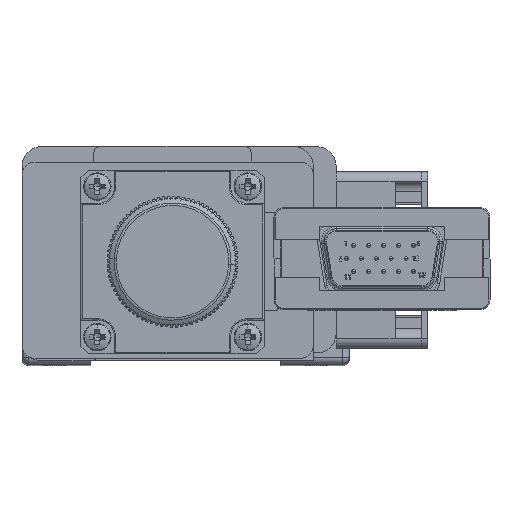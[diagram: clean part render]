
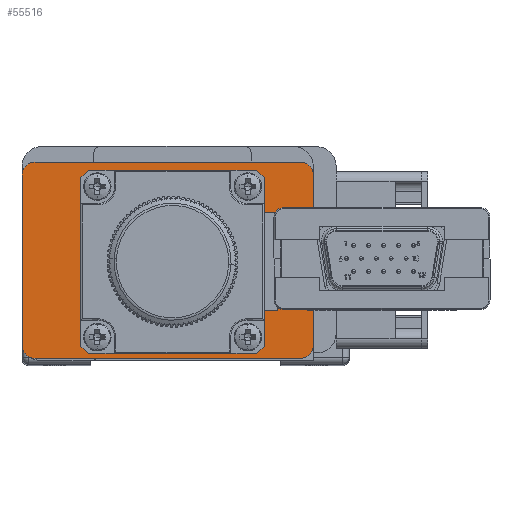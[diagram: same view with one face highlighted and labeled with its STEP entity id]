
A CAD part, top view. The second image highlights one B-rep face of the part: STEP entity #55516.
In plain terms, the highlighted planar face has unit normal (0, 0, 1).
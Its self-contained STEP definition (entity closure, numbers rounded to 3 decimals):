
#1582 = ORIENTED_EDGE ( 'NONE', *, *, #48464, .T. ) ;
#3471 = DIRECTION ( 'NONE',  ( 1., 0., 0. ) ) ;
#3500 = PLANE ( 'NONE',  #75609 ) ;
#4086 = DIRECTION ( 'NONE',  ( 1., 0., 0. ) ) ;
#4214 = VECTOR ( 'NONE', #81685, 1000. ) ;
#4938 = VERTEX_POINT ( 'NONE', #30209 ) ;
#5626 = LINE ( 'NONE', #32483, #68173 ) ;
#5720 = AXIS2_PLACEMENT_3D ( 'NONE', #13484, #27358, #54657 ) ;
#9014 = EDGE_CURVE ( 'NONE', #15993, #18478, #86509, .T. ) ;
#10518 = EDGE_CURVE ( 'NONE', #53609, #67278, #5626, .T. ) ;
#12225 = CARTESIAN_POINT ( 'NONE',  ( -15.7, 1.5, 173. ) ) ;
#12285 = CARTESIAN_POINT ( 'NONE',  ( 17.5, 30.8, 173. ) ) ;
#12494 = VECTOR ( 'NONE', #67122, 1000. ) ;
#12816 = AXIS2_PLACEMENT_3D ( 'NONE', #37669, #85050, #4086 ) ;
#13484 = CARTESIAN_POINT ( 'NONE',  ( 17.5, 2.8, 173. ) ) ;
#13660 = VECTOR ( 'NONE', #69851, 1000. ) ;
#14307 = CIRCLE ( 'NONE', #5720, 2. ) ;
#15535 = VECTOR ( 'NONE', #52042, 1000. ) ;
#15993 = VERTEX_POINT ( 'NONE', #56443 ) ;
#16459 = DIRECTION ( 'NONE',  ( -1., 0., 0. ) ) ;
#18478 = VERTEX_POINT ( 'NONE', #26362 ) ;
#20134 = CARTESIAN_POINT ( 'NONE',  ( -14.638, 29.288, 173. ) ) ;
#20224 = EDGE_LOOP ( 'NONE', ( #1582, #58415, #27338, #53879, #38634, #65085, #87998, #76456 ) ) ;
#21702 = VERTEX_POINT ( 'NONE', #75452 ) ;
#21891 = ORIENTED_EDGE ( 'NONE', *, *, #45389, .T. ) ;
#22682 = EDGE_CURVE ( 'NONE', #67278, #64568, #34999, .T. ) ;
#24197 = VERTEX_POINT ( 'NONE', #76011 ) ;
#24940 = CARTESIAN_POINT ( 'NONE',  ( -23., 2.8, 173. ) ) ;
#26105 = LINE ( 'NONE', #73969, #54055 ) ;
#26190 = VERTEX_POINT ( 'NONE', #27854 ) ;
#26362 = CARTESIAN_POINT ( 'NONE',  ( -23., 0.8, 173. ) ) ;
#26476 = DIRECTION ( 'NONE',  ( 1., 0., 0. ) ) ;
#26663 = DIRECTION ( 'NONE',  ( -1., 0., 0. ) ) ;
#27165 = CARTESIAN_POINT ( 'NONE',  ( 19.5, 30.8, 173. ) ) ;
#27224 = ORIENTED_EDGE ( 'NONE', *, *, #86490, .T. ) ;
#27338 = ORIENTED_EDGE ( 'NONE', *, *, #75373, .T. ) ;
#27358 = DIRECTION ( 'NONE',  ( 0., 0., 1. ) ) ;
#27705 = DIRECTION ( 'NONE',  ( 1., 0., 0. ) ) ;
#27854 = CARTESIAN_POINT ( 'NONE',  ( -14.726, 29.2, 173. ) ) ;
#28844 = ORIENTED_EDGE ( 'NONE', *, *, #10518, .T. ) ;
#29890 = LINE ( 'NONE', #77704, #44970 ) ;
#30209 = CARTESIAN_POINT ( 'NONE',  ( -15.7, 28.226, 173. ) ) ;
#31855 = AXIS2_PLACEMENT_3D ( 'NONE', #73558, #32869, #85178 ) ;
#31900 = LINE ( 'NONE', #12225, #15535 ) ;
#32141 = FACE_BOUND ( 'NONE', #67525, .T. ) ;
#32389 = CARTESIAN_POINT ( 'NONE',  ( 19.5, 2.8, 173. ) ) ;
#32483 = CARTESIAN_POINT ( 'NONE',  ( 12., 1.8, 173. ) ) ;
#32869 = DIRECTION ( 'NONE',  ( 0., 0., 1. ) ) ;
#33001 = VERTEX_POINT ( 'NONE', #32389 ) ;
#33691 = ORIENTED_EDGE ( 'NONE', *, *, #86276, .T. ) ;
#34135 = EDGE_CURVE ( 'NONE', #39885, #79963, #57557, .T. ) ;
#34999 = LINE ( 'NONE', #68540, #13660 ) ;
#35399 = LINE ( 'NONE', #42091, #81380 ) ;
#37331 = ORIENTED_EDGE ( 'NONE', *, *, #54686, .T. ) ;
#37536 = FACE_OUTER_BOUND ( 'NONE', #20224, .T. ) ;
#37669 = CARTESIAN_POINT ( 'NONE',  ( 17.5, 28.8, 173. ) ) ;
#38568 = CARTESIAN_POINT ( 'NONE',  ( 17.5, 0.8, 173. ) ) ;
#38634 = ORIENTED_EDGE ( 'NONE', *, *, #58227, .T. ) ;
#38813 = EDGE_CURVE ( 'NONE', #43091, #39885, #29890, .T. ) ;
#39885 = VERTEX_POINT ( 'NONE', #72322 ) ;
#42091 = CARTESIAN_POINT ( 'NONE',  ( 11.7, 1.5, 173. ) ) ;
#43091 = VERTEX_POINT ( 'NONE', #12285 ) ;
#43494 = LINE ( 'NONE', #63638, #57869 ) ;
#44970 = VECTOR ( 'NONE', #16459, 1000. ) ;
#45389 = EDGE_CURVE ( 'NONE', #21702, #53609, #26105, .T. ) ;
#46886 = VERTEX_POINT ( 'NONE', #38568 ) ;
#48464 = EDGE_CURVE ( 'NONE', #79963, #15993, #43494, .T. ) ;
#52042 = DIRECTION ( 'NONE',  ( 0., 1., 0. ) ) ;
#53405 = DIRECTION ( 'NONE',  ( -0.707, -0.707, 0. ) ) ;
#53609 = VERTEX_POINT ( 'NONE', #57524 ) ;
#53716 = CARTESIAN_POINT ( 'NONE',  ( 11.788, 28.138, 173. ) ) ;
#53879 = ORIENTED_EDGE ( 'NONE', *, *, #81183, .T. ) ;
#54055 = VECTOR ( 'NONE', #53405, 1000. ) ;
#54657 = DIRECTION ( 'NONE',  ( 1., 0., 0. ) ) ;
#54686 = EDGE_CURVE ( 'NONE', #64568, #4938, #31900, .T. ) ;
#54907 = VERTEX_POINT ( 'NONE', #76568 ) ;
#55440 = LINE ( 'NONE', #82679, #75747 ) ;
#55516 = ADVANCED_FACE ( 'NONE', ( #32141, #37536 ), #3500, .T. ) ;
#56078 = ORIENTED_EDGE ( 'NONE', *, *, #83516, .T. ) ;
#56443 = CARTESIAN_POINT ( 'NONE',  ( -25., 2.8, 173. ) ) ;
#57215 = VECTOR ( 'NONE', #86700, 1000. ) ;
#57524 = CARTESIAN_POINT ( 'NONE',  ( 10.726, 1.8, 173. ) ) ;
#57557 = CIRCLE ( 'NONE', #31855, 2. ) ;
#57869 = VECTOR ( 'NONE', #77917, 1000. ) ;
#58227 = EDGE_CURVE ( 'NONE', #33001, #54907, #61155, .T. ) ;
#58415 = ORIENTED_EDGE ( 'NONE', *, *, #9014, .T. ) ;
#59197 = CARTESIAN_POINT ( 'NONE',  ( -15.7, 2.774, 173. ) ) ;
#60473 = LINE ( 'NONE', #87710, #75993 ) ;
#60499 = EDGE_CURVE ( 'NONE', #26190, #67467, #55440, .T. ) ;
#61155 = LINE ( 'NONE', #27165, #4214 ) ;
#62209 = CARTESIAN_POINT ( 'NONE',  ( -25., 28.8, 173. ) ) ;
#63638 = CARTESIAN_POINT ( 'NONE',  ( -25., 30.8, 173. ) ) ;
#64568 = VERTEX_POINT ( 'NONE', #59197 ) ;
#64812 = CARTESIAN_POINT ( 'NONE',  ( -2., 15.5, 173. ) ) ;
#65085 = ORIENTED_EDGE ( 'NONE', *, *, #86109, .T. ) ;
#67122 = DIRECTION ( 'NONE',  ( 0.707, -0.707, 0. ) ) ;
#67278 = VERTEX_POINT ( 'NONE', #67365 ) ;
#67365 = CARTESIAN_POINT ( 'NONE',  ( -14.726, 1.8, 173. ) ) ;
#67467 = VERTEX_POINT ( 'NONE', #75835 ) ;
#67525 = EDGE_LOOP ( 'NONE', ( #21891, #28844, #75249, #37331, #27224, #75638, #56078, #33691 ) ) ;
#68173 = VECTOR ( 'NONE', #26663, 1000. ) ;
#68540 = CARTESIAN_POINT ( 'NONE',  ( -15.788, 2.862, 173. ) ) ;
#69851 = DIRECTION ( 'NONE',  ( -0.707, 0.707, 0. ) ) ;
#71940 = DIRECTION ( 'NONE',  ( 0., 0., 1. ) ) ;
#72322 = CARTESIAN_POINT ( 'NONE',  ( -23., 30.8, 173. ) ) ;
#73251 = DIRECTION ( 'NONE',  ( 0., 0., 1. ) ) ;
#73558 = CARTESIAN_POINT ( 'NONE',  ( -23., 28.8, 173. ) ) ;
#73776 = LINE ( 'NONE', #20134, #57215 ) ;
#73969 = CARTESIAN_POINT ( 'NONE',  ( 10.638, 1.712, 173. ) ) ;
#75249 = ORIENTED_EDGE ( 'NONE', *, *, #22682, .T. ) ;
#75373 = EDGE_CURVE ( 'NONE', #18478, #46886, #60473, .T. ) ;
#75452 = CARTESIAN_POINT ( 'NONE',  ( 11.7, 2.774, 173. ) ) ;
#75609 = AXIS2_PLACEMENT_3D ( 'NONE', #64812, #71940, #78224 ) ;
#75633 = CIRCLE ( 'NONE', #12816, 2. ) ;
#75638 = ORIENTED_EDGE ( 'NONE', *, *, #60499, .T. ) ;
#75747 = VECTOR ( 'NONE', #27705, 1000. ) ;
#75835 = CARTESIAN_POINT ( 'NONE',  ( 10.726, 29.2, 173. ) ) ;
#75993 = VECTOR ( 'NONE', #26476, 1000. ) ;
#76011 = CARTESIAN_POINT ( 'NONE',  ( 11.7, 28.226, 173. ) ) ;
#76456 = ORIENTED_EDGE ( 'NONE', *, *, #34135, .T. ) ;
#76568 = CARTESIAN_POINT ( 'NONE',  ( 19.5, 28.8, 173. ) ) ;
#77704 = CARTESIAN_POINT ( 'NONE',  ( -25., 30.8, 173. ) ) ;
#77917 = DIRECTION ( 'NONE',  ( 0., -1., 0. ) ) ;
#78224 = DIRECTION ( 'NONE',  ( 1., 0., 0. ) ) ;
#79963 = VERTEX_POINT ( 'NONE', #62209 ) ;
#81183 = EDGE_CURVE ( 'NONE', #46886, #33001, #14307, .T. ) ;
#81380 = VECTOR ( 'NONE', #82332, 1000. ) ;
#81685 = DIRECTION ( 'NONE',  ( 0., 1., 0. ) ) ;
#81850 = LINE ( 'NONE', #53716, #12494 ) ;
#82332 = DIRECTION ( 'NONE',  ( 0., -1., 0. ) ) ;
#82679 = CARTESIAN_POINT ( 'NONE',  ( 12., 29.2, 173. ) ) ;
#83516 = EDGE_CURVE ( 'NONE', #67467, #24197, #81850, .T. ) ;
#85050 = DIRECTION ( 'NONE',  ( 0., 0., 1. ) ) ;
#85178 = DIRECTION ( 'NONE',  ( 1., 0., 0. ) ) ;
#86109 = EDGE_CURVE ( 'NONE', #54907, #43091, #75633, .T. ) ;
#86276 = EDGE_CURVE ( 'NONE', #24197, #21702, #35399, .T. ) ;
#86490 = EDGE_CURVE ( 'NONE', #4938, #26190, #73776, .T. ) ;
#86509 = CIRCLE ( 'NONE', #87944, 2. ) ;
#86700 = DIRECTION ( 'NONE',  ( 0.707, 0.707, 0. ) ) ;
#87710 = CARTESIAN_POINT ( 'NONE',  ( -25., 0.8, 173. ) ) ;
#87944 = AXIS2_PLACEMENT_3D ( 'NONE', #24940, #73251, #3471 ) ;
#87998 = ORIENTED_EDGE ( 'NONE', *, *, #38813, .T. ) ;
